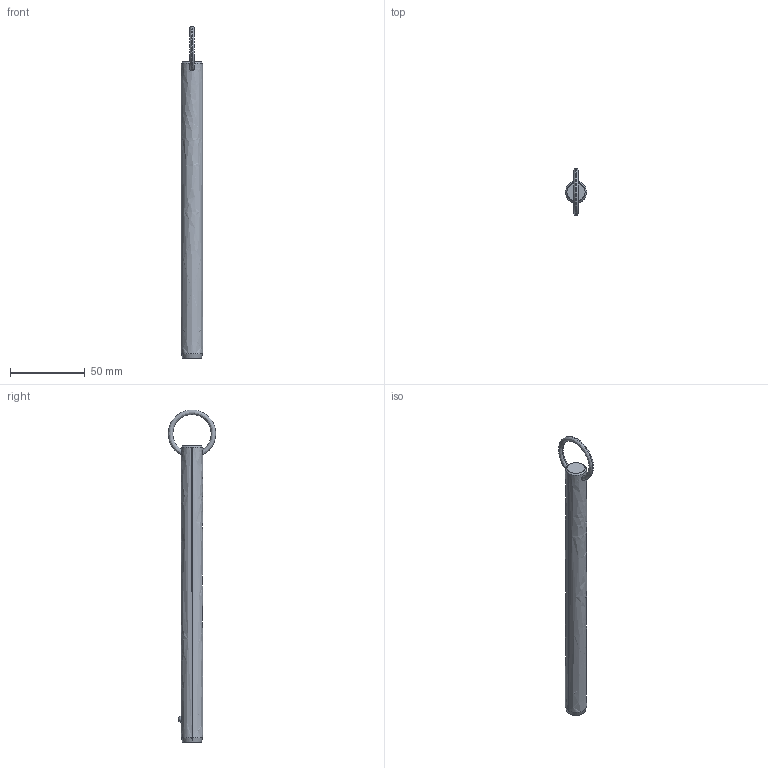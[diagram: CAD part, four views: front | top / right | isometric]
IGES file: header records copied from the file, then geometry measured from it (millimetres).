
Start section: SolidWorks IGES file using analytic representation for surfaces
Global section: file name: C:\Users\liam_\OneDrive\Documents\WORK\Work for WixRoyd\Job Files\J-00019 - Matt Davis CAD Checking\04. CAD Drawings\automotion20190605\P1250.2_v2\P1250.2_v2_20190729_IGES\P1250.056-680.igs; native system: SolidWorks 2017; preprocessor: SolidWorks 2017; author: liam_; date: 190729.232856; units: millimetre
Bounding box: 14.2 x 31.67 x 221.8 mm (x, y, z)
Surface area: 9798.8 mm2 (no closed solid volume)
Topology: 0 solids, 0 shells, 12 faces, 285 edges, 283 vertices
Faces by surface type: revolution 8, bspline 4
